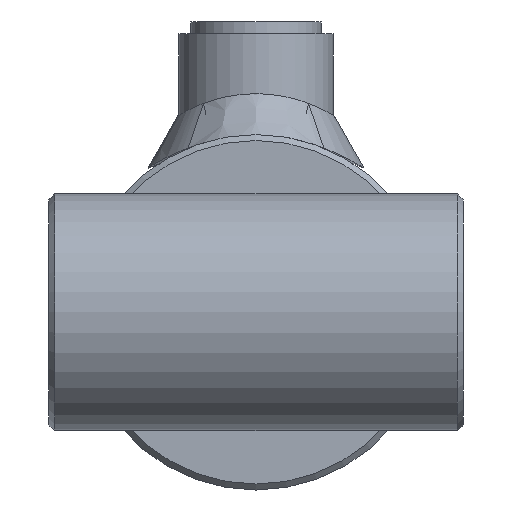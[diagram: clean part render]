
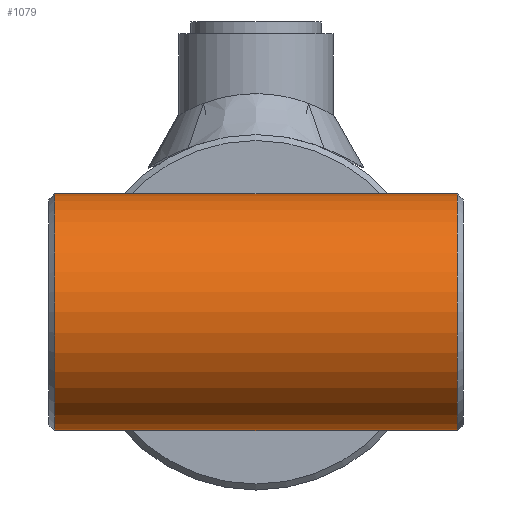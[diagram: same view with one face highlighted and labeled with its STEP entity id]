
A CAD part, left-side view. The second image highlights one B-rep face of the part: STEP entity #1079.
In plain terms, the highlighted cylindrical face has radius 20 mm (diameter 40 mm), a full revolution.
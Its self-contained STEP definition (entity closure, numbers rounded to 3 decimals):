
#1079 = ADVANCED_FACE( '', ( #2066, #2067 ), #2068, .T. );
#2066 = FACE_OUTER_BOUND( '', #6837, .T. );
#2067 = FACE_OUTER_BOUND( '', #6838, .T. );
#2068 = CYLINDRICAL_SURFACE( '', #6839, 20. );
#6837 = EDGE_LOOP( '', ( #11867 ) );
#6838 = EDGE_LOOP( '', ( #11868 ) );
#6839 = AXIS2_PLACEMENT_3D( '', #11869, #11870, #11871 );
#11867 = ORIENTED_EDGE( '', *, *, #13201, .T. );
#11868 = ORIENTED_EDGE( '', *, *, #13166, .T. );
#11869 = CARTESIAN_POINT( '', ( 0., -35., 0. ) );
#11870 = DIRECTION( '', ( 0., -1., 0. ) );
#11871 = DIRECTION( '', ( 0., 0., 1. ) );
#13166 = EDGE_CURVE( '', #14301, #14301, #14302, .T. );
#13201 = EDGE_CURVE( '', #14346, #14346, #14347, .F. );
#14301 = VERTEX_POINT( '', #17351 );
#14302 = CIRCLE( '', #17352, 20. );
#14346 = VERTEX_POINT( '', #17450 );
#14347 = CIRCLE( '', #17451, 20. );
#17351 = CARTESIAN_POINT( '', ( 0., -34., 20. ) );
#17352 = AXIS2_PLACEMENT_3D( '', #18745, #18746, #18747 );
#17450 = CARTESIAN_POINT( '', ( 0., 34., 20. ) );
#17451 = AXIS2_PLACEMENT_3D( '', #18775, #18776, #18777 );
#18745 = CARTESIAN_POINT( '', ( 0., -34., 0. ) );
#18746 = DIRECTION( '', ( 0., 1., 0. ) );
#18747 = DIRECTION( '', ( 0., 0., 1. ) );
#18775 = CARTESIAN_POINT( '', ( 0., 34., 0. ) );
#18776 = DIRECTION( '', ( 0., 1., 0. ) );
#18777 = DIRECTION( '', ( 0., 0., 1. ) );
